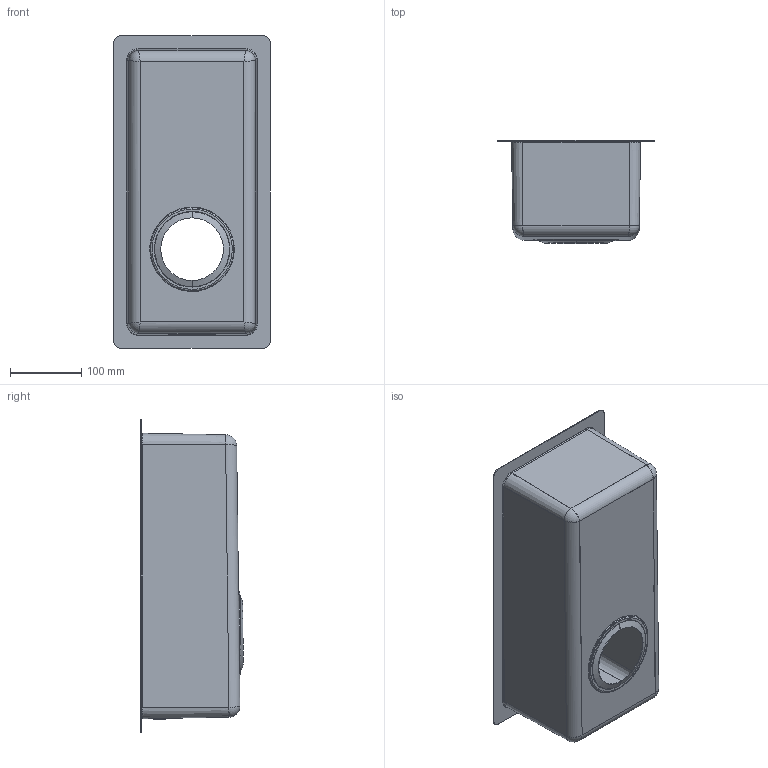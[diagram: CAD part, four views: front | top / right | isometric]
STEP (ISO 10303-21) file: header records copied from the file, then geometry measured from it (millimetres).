
FILE_DESCRIPTION (( 'STEP AP214' ), '1' );
FILE_NAME ('Morath Becken MR15-18 (SER 18) mit Rand.STEP', '2023-02-07T07:26:44', ( '' ), ( '' ), 'SwSTEP 2.0', 'SolidWorks 2022', '' );
FILE_SCHEMA (( 'AUTOMOTIVE_DESIGN' ));
Length unit declared in the file: millimetre
Products named in the file (1): Morath Becken MR15-18 (SER 18) mit Rand
Bounding box: 220 x 144.57 x 440 mm (x, y, z)
Volume: 235601.2 mm3; surface area: 468421.3 mm2
Topology: 1 solids, 1 shells, 123 faces, 285 edges, 162 vertices
Faces by surface type: bspline 44, cylinder 43, plane 24, cone 12
Entity records: 10185 total; most frequent: CARTESIAN_POINT 7637, ORIENTED_EDGE 554, DIRECTION 483, EDGE_CURVE 277, AXIS2_PLACEMENT_3D 186, VERTEX_POINT 162, EDGE_LOOP 133, FACE_OUTER_BOUND 123
